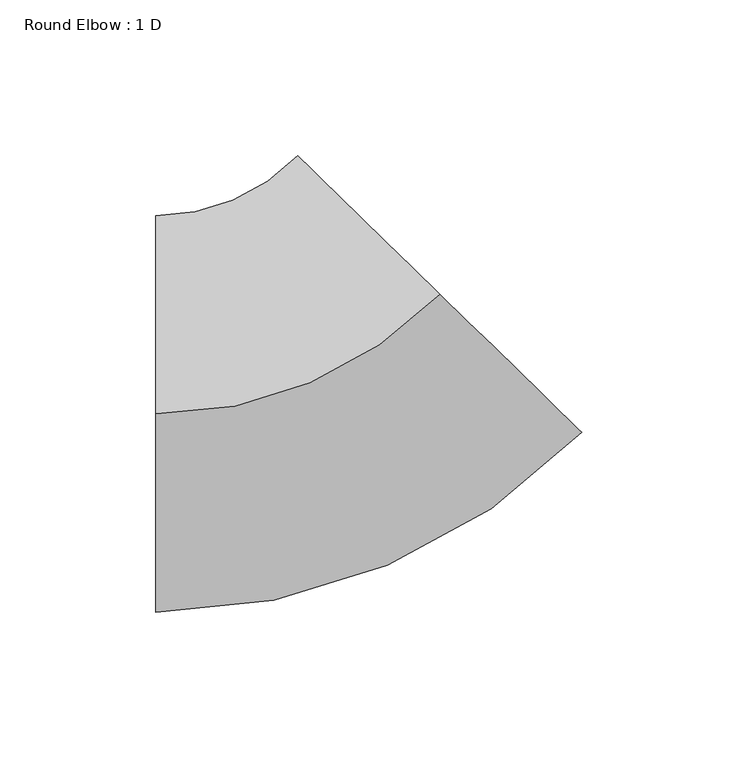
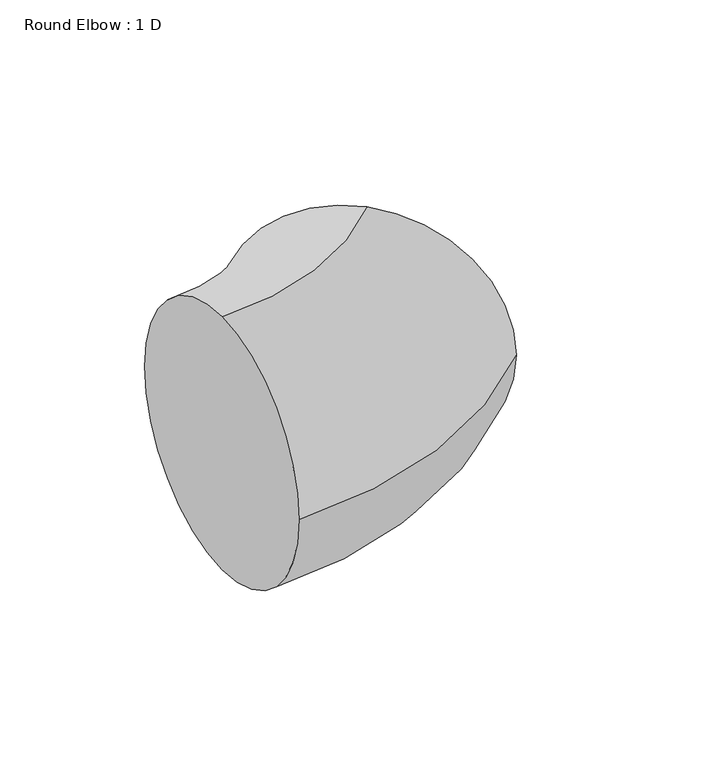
"""IFC4 building model written with IfcOpenShell, lengths in millimetres: duct fitting geometry, Round Elbow : 1 D."""

from ifc_helpers import new_model, si_unit, point, frame, origin, place, context, project, spatial, circle_curve, ellipse_curve, trimmed, source, transform, mapped, element, save
from ifc_brep_helpers import plane_surface, revolved_surface, advanced_brep


def round_elbow_1_d_043b31b5(model_context):
    return source(origin(), model_context, "Body", "AdvancedBrep", [
        advanced_brep(
        [(-53.6025148, 0.0, 63.5), (-53.6025148, 63.5, 0.0), (-53.6025148, 0.0, -63.5), (-53.6025148, -63.5, 0.0), (37.3925926, 38.4060362, 63.5), (82.8901463, -5.8909458, 0.0), (37.3925926, 38.4060362, -63.5), (-8.1049611, 82.7030181, 0.0)],
        [
            (0, 1, circle_curve(frame((-53.6025148, 0.0, 0.0), z_axis=(-1.0, 0.0, 0.0), x_axis=(0.0, 1.0, 0.0)), 63.5)),
            (1, 2, circle_curve(frame((-53.6025148, 0.0, 0.0), z_axis=(-1.0, 0.0, 0.0), x_axis=(0.0, 1.0, 0.0)), 63.5)),
            (2, 3, circle_curve(frame((-53.6025148, 0.0, 0.0), z_axis=(-1.0, 0.0, 0.0), x_axis=(0.0, 1.0, 0.0)), 63.5)),
            (3, 0, circle_curve(frame((-53.6025148, 0.0, 0.0), z_axis=(-1.0, 0.0, 0.0), x_axis=(0.0, 1.0, 0.0)), 63.5)),
            (4, 5, circle_curve(frame((37.3925926, 38.4060362, 0.0), z_axis=(0.6975902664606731, 0.7164969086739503, 0.0), x_axis=(-0.7164969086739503, 0.6975902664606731, 0.0)), 63.5)),
            (5, 6, circle_curve(frame((37.3925926, 38.4060362, 0.0), z_axis=(0.6975902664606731, 0.7164969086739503, 0.0), x_axis=(-0.7164969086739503, 0.6975902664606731, 0.0)), 63.5)),
            (6, 7, circle_curve(frame((37.3925926, 38.4060362, 0.0), z_axis=(0.6975902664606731, 0.7164969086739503, 0.0), x_axis=(-0.7164969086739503, 0.6975902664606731, 0.0)), 63.5)),
            (7, 4, circle_curve(frame((37.3925926, 38.4060362, 0.0), z_axis=(0.6975902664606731, 0.7164969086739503, 0.0), x_axis=(-0.7164969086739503, 0.6975902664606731, 0.0)), 63.5)),
            (7, 1, circle_curve(frame((-53.6025148, 127.0, 0.0), z_axis=(0.0, 0.0, -1.0), x_axis=(0.0, -1.0, 0.0)), 63.5)),
            (0, 4, circle_curve(frame((-53.6025148, 127.0, 63.5), z_axis=(0.0, 0.0, 1.0), x_axis=(0.0, -1.0, 0.0)), 127.0)),
            (6, 2, circle_curve(frame((-53.6025148, 127.0, -63.5), z_axis=(0.0, 0.0, -1.0), x_axis=(0.0, -1.0, 0.0)), 127.0)),
            (5, 3, circle_curve(frame((-53.6025148, 127.0, 0.0), z_axis=(0.0, 0.0, -1.0), x_axis=(0.0, -1.0, 0.0)), 190.5)),
        ],
        [
            plane_surface(frame((-53.6025148, 0.0, 0.0), z_axis=(-1.0, 0.0, 0.0), x_axis=(0.0, 0.0, 1.0))),
            plane_surface(frame((37.3925926, 38.4060362, 0.0), z_axis=(0.6975902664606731, 0.7164969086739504, 0.0), x_axis=(0.0, 0.0, 1.0))),
            revolved_surface(trimmed(ellipse_curve(frame((-53.6025148, 0.0, 0.0), z_axis=(-1.0, 0.0, 0.0), x_axis=(0.0, 1.0, 0.0)), 63.5, 63.5), [point((-53.6025148, 0.0, 63.5))], [point((-53.6025148, 63.5, 0.0))], True, "CARTESIAN"), (-53.6025148, 127.0, 0.0), (0.0, 0.0, 1.0)),
            revolved_surface(trimmed(ellipse_curve(frame((-53.6025148, 0.0, 0.0), z_axis=(-1.0, 0.0, 0.0), x_axis=(0.0, 1.0, 0.0)), 63.5, 63.5), [point((-53.6025148, 63.5, 0.0))], [point((-53.6025148, 0.0, -63.5))], True, "CARTESIAN"), (-53.6025148, 127.0, 0.0), (0.0, 0.0, 1.0)),
            revolved_surface(trimmed(ellipse_curve(frame((-53.6025148, 0.0, 0.0), z_axis=(-1.0, 0.0, 0.0), x_axis=(0.0, 1.0, 0.0)), 63.5, 63.5), [point((-53.6025148, 0.0, -63.5))], [point((-53.6025148, -63.5, 0.0))], True, "CARTESIAN"), (-53.6025148, 127.0, 0.0), (0.0, 0.0, 1.0)),
            revolved_surface(trimmed(ellipse_curve(frame((-53.6025148, 0.0, 0.0), z_axis=(-1.0, 0.0, 0.0), x_axis=(0.0, 1.0, 0.0)), 63.5, 63.5), [point((-53.6025148, -63.5, 0.0))], [point((-53.6025148, 0.0, 63.5))], True, "CARTESIAN"), (-53.6025148, 127.0, 0.0), (0.0, 0.0, 1.0)),
        ],
        [
            (0, [[1, 2, 3, 4]]),
            (1, [[5, 6, 7, 8]]),
            (2, [[9, -1, 10, -8]]),
            (3, [[11, -2, -9, -7]]),
            (4, [[12, -3, -11, -6]]),
            (5, [[-10, -4, -12, -5]]),
        ],
    ),
    ])


if __name__ == "__main__":
    model = new_model("IFC4")
    model_context = context("Model", 3, world=origin())
    ifc_project = project(units=[si_unit("LENGTHUNIT", "METRE", prefix="MILLI")], contexts=[model_context])
    site = spatial("IfcSite", under=ifc_project)
    building = spatial("IfcBuilding", under=site)
    placement = place(None, origin())
    round_elbow_1_d_shape = round_elbow_1_d_043b31b5(model_context)
    element("IfcDuctFitting", 1, ObjectType="Round Elbow : 1 D", at=placement, inside=building, context=model_context, shape_type="MappedRepresentation", body=[
        mapped(round_elbow_1_d_shape, transform((0.0, 0.0, 0.0), x_axis=(1.0, 0.0, 0.0), y_axis=(0.0, 1.0, 0.0), z_axis=(0.0, 0.0, 1.0))),
    ])
    save(model, "model.ifc")
